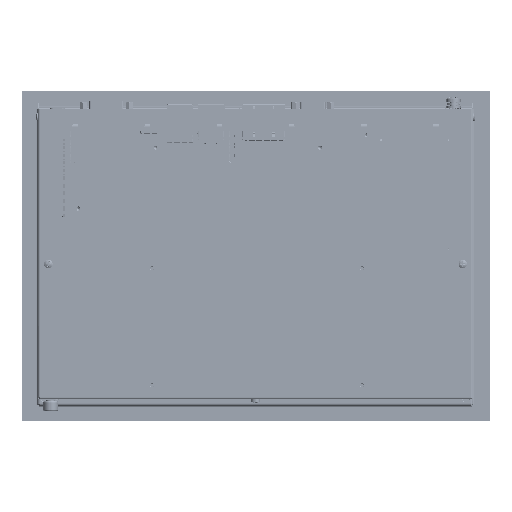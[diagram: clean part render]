
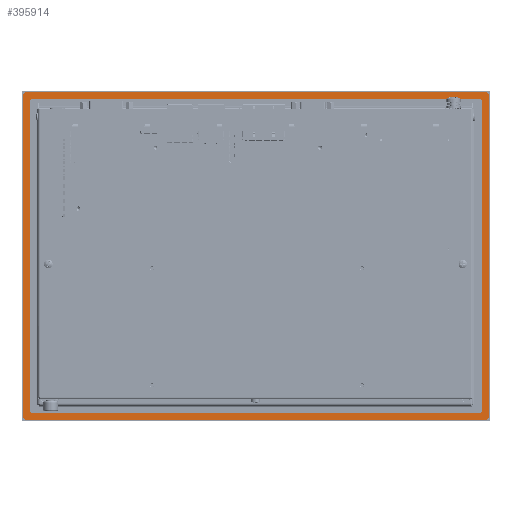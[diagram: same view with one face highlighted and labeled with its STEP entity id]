
A CAD part, front view. The second image highlights one B-rep face of the part: STEP entity #395914.
In plain terms, the highlighted planar face has unit normal (0, -1, 0).
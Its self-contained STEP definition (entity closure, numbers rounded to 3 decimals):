
#6943 = CARTESIAN_POINT ( 'NONE',  ( -158.5, 0., 111. ) ) ;
#7963 = LINE ( 'NONE', #56873, #588717 ) ;
#8489 = VECTOR ( 'NONE', #37451, 1000. ) ;
#11797 = LINE ( 'NONE', #177505, #574786 ) ;
#13218 = VERTEX_POINT ( 'NONE', #521385 ) ;
#17509 = ORIENTED_EDGE ( 'NONE', *, *, #657975, .F. ) ;
#18868 = CARTESIAN_POINT ( 'NONE',  ( -162.5, 0., -116. ) ) ;
#31615 = VERTEX_POINT ( 'NONE', #721792 ) ;
#37451 = DIRECTION ( 'NONE',  ( -1., 0., 0. ) ) ;
#45205 = CARTESIAN_POINT ( 'NONE',  ( -162.5, 0., 116. ) ) ;
#51156 = VERTEX_POINT ( 'NONE', #186982 ) ;
#56873 = CARTESIAN_POINT ( 'NONE',  ( -158.5, 0., -111. ) ) ;
#57369 = VERTEX_POINT ( 'NONE', #688558 ) ;
#68430 = LINE ( 'NONE', #566983, #147587 ) ;
#78218 = DIRECTION ( 'NONE',  ( 0., 0., 1. ) ) ;
#86689 = CARTESIAN_POINT ( 'NONE',  ( 158.5, 0., 111. ) ) ;
#88964 = VERTEX_POINT ( 'NONE', #489904 ) ;
#99351 = CARTESIAN_POINT ( 'NONE',  ( -159.5, 0., 110. ) ) ;
#100674 = ORIENTED_EDGE ( 'NONE', *, *, #215741, .F. ) ;
#108910 = DIRECTION ( 'NONE',  ( 0., 1., 0. ) ) ;
#110302 = CARTESIAN_POINT ( 'NONE',  ( -158.5, 0., -110. ) ) ;
#132757 = VERTEX_POINT ( 'NONE', #18868 ) ;
#143692 = PLANE ( 'NONE',  #554840 ) ;
#145371 = EDGE_CURVE ( 'NONE', #132757, #389582, #220247, .T. ) ;
#146539 = CARTESIAN_POINT ( 'NONE',  ( -164.5, 0., 114. ) ) ;
#147587 = VECTOR ( 'NONE', #677728, 1000. ) ;
#150315 = CARTESIAN_POINT ( 'NONE',  ( 158.5, 0., -111. ) ) ;
#158958 = ORIENTED_EDGE ( 'NONE', *, *, #323422, .F. ) ;
#159292 = CIRCLE ( 'NONE', #565116, 2. ) ;
#160713 = CIRCLE ( 'NONE', #276014, 1. ) ;
#161945 = ORIENTED_EDGE ( 'NONE', *, *, #202605, .F. ) ;
#171222 = VERTEX_POINT ( 'NONE', #150315 ) ;
#175907 = DIRECTION ( 'NONE',  ( 0., 0., 1. ) ) ;
#177505 = CARTESIAN_POINT ( 'NONE',  ( 164.5, 0., 114. ) ) ;
#180217 = FACE_BOUND ( 'NONE', #456961, .T. ) ;
#181221 = ORIENTED_EDGE ( 'NONE', *, *, #693319, .F. ) ;
#186982 = CARTESIAN_POINT ( 'NONE',  ( -158.5, 0., -111. ) ) ;
#191861 = DIRECTION ( 'NONE',  ( 0., 0., -1. ) ) ;
#192670 = CARTESIAN_POINT ( 'NONE',  ( -162.5, 0., -114. ) ) ;
#199132 = LINE ( 'NONE', #99351, #366321 ) ;
#202605 = EDGE_CURVE ( 'NONE', #31615, #485783, #199132, .T. ) ;
#204825 = CARTESIAN_POINT ( 'NONE',  ( 162.5, 0., -116. ) ) ;
#209749 = DIRECTION ( 'NONE',  ( 1., 0., 0. ) ) ;
#215741 = EDGE_CURVE ( 'NONE', #171222, #88964, #557261, .T. ) ;
#219437 = CARTESIAN_POINT ( 'NONE',  ( -162.5, 0., 116. ) ) ;
#220247 = CIRCLE ( 'NONE', #374240, 2. ) ;
#223535 = ORIENTED_EDGE ( 'NONE', *, *, #504006, .F. ) ;
#226540 = DIRECTION ( 'NONE',  ( 1., 0., 0. ) ) ;
#228072 = DIRECTION ( 'NONE',  ( -1., 0., 0. ) ) ;
#229307 = ORIENTED_EDGE ( 'NONE', *, *, #532876, .F. ) ;
#231209 = CARTESIAN_POINT ( 'NONE',  ( 159.5, 0., 110. ) ) ;
#235998 = CARTESIAN_POINT ( 'NONE',  ( -159.5, 0., -110. ) ) ;
#256733 = LINE ( 'NONE', #45205, #423765 ) ;
#263970 = CARTESIAN_POINT ( 'NONE',  ( 0., 0., 0. ) ) ;
#268368 = DIRECTION ( 'NONE',  ( 1., 0., 0. ) ) ;
#276014 = AXIS2_PLACEMENT_3D ( 'NONE', #603102, #553707, #494847 ) ;
#279978 = DIRECTION ( 'NONE',  ( 0., -1., 0. ) ) ;
#285223 = AXIS2_PLACEMENT_3D ( 'NONE', #540613, #317219, #432497 ) ;
#293621 = DIRECTION ( 'NONE',  ( 0., 1., 0. ) ) ;
#293891 = EDGE_CURVE ( 'NONE', #355477, #540027, #639030, .T. ) ;
#296530 = ORIENTED_EDGE ( 'NONE', *, *, #548784, .F. ) ;
#302589 = ORIENTED_EDGE ( 'NONE', *, *, #382051, .F. ) ;
#304425 = ORIENTED_EDGE ( 'NONE', *, *, #145371, .F. ) ;
#306601 = CARTESIAN_POINT ( 'NONE',  ( -164.5, 0., -114. ) ) ;
#317219 = DIRECTION ( 'NONE',  ( 0., 1., 0. ) ) ;
#323422 = EDGE_CURVE ( 'NONE', #540027, #13218, #256733, .T. ) ;
#328510 = DIRECTION ( 'NONE',  ( 0., -1., 0. ) ) ;
#351634 = LINE ( 'NONE', #204825, #8489 ) ;
#355477 = VERTEX_POINT ( 'NONE', #146539 ) ;
#355838 = FACE_OUTER_BOUND ( 'NONE', #576237, .T. ) ;
#361396 = DIRECTION ( 'NONE',  ( 0., -1., 0. ) ) ;
#366321 = VECTOR ( 'NONE', #492523, 1000. ) ;
#374240 = AXIS2_PLACEMENT_3D ( 'NONE', #192670, #293621, #524342 ) ;
#382051 = EDGE_CURVE ( 'NONE', #485783, #51156, #602934, .T. ) ;
#389582 = VERTEX_POINT ( 'NONE', #306601 ) ;
#393761 = CARTESIAN_POINT ( 'NONE',  ( 158.5, 0., 111. ) ) ;
#395914 = ADVANCED_FACE ( 'NONE', ( #180217, #355838 ), #143692, .F. ) ;
#404335 = CARTESIAN_POINT ( 'NONE',  ( 159.5, 0., -110. ) ) ;
#413339 = VECTOR ( 'NONE', #536314, 1000. ) ;
#416981 = VERTEX_POINT ( 'NONE', #393761 ) ;
#416995 = EDGE_CURVE ( 'NONE', #51156, #171222, #7963, .T. ) ;
#417176 = AXIS2_PLACEMENT_3D ( 'NONE', #110302, #279978, #228072 ) ;
#423765 = VECTOR ( 'NONE', #657549, 1000. ) ;
#431128 = AXIS2_PLACEMENT_3D ( 'NONE', #654195, #656639, #268368 ) ;
#432497 = DIRECTION ( 'NONE',  ( -1., 0., 0. ) ) ;
#434084 = EDGE_CURVE ( 'NONE', #701088, #31615, #160713, .T. ) ;
#442389 = ORIENTED_EDGE ( 'NONE', *, *, #596772, .F. ) ;
#456961 = EDGE_LOOP ( 'NONE', ( #302589, #161945, #503907, #223535, #296530, #647813, #100674, #500503 ) ) ;
#479156 = CARTESIAN_POINT ( 'NONE',  ( 158.5, 0., -110. ) ) ;
#485783 = VERTEX_POINT ( 'NONE', #235998 ) ;
#489904 = CARTESIAN_POINT ( 'NONE',  ( 159.5, 0., -110. ) ) ;
#492523 = DIRECTION ( 'NONE',  ( 0., 0., -1. ) ) ;
#494847 = DIRECTION ( 'NONE',  ( 0., 0., 1. ) ) ;
#500503 = ORIENTED_EDGE ( 'NONE', *, *, #416995, .F. ) ;
#503907 = ORIENTED_EDGE ( 'NONE', *, *, #434084, .F. ) ;
#504006 = EDGE_CURVE ( 'NONE', #416981, #701088, #571910, .T. ) ;
#509360 = EDGE_CURVE ( 'NONE', #88964, #600996, #571832, .T. ) ;
#517917 = ORIENTED_EDGE ( 'NONE', *, *, #559751, .F. ) ;
#519060 = AXIS2_PLACEMENT_3D ( 'NONE', #479156, #361396, #191861 ) ;
#521385 = CARTESIAN_POINT ( 'NONE',  ( 162.5, 0., 116. ) ) ;
#524342 = DIRECTION ( 'NONE',  ( 0., 0., -1. ) ) ;
#532876 = EDGE_CURVE ( 'NONE', #610668, #57369, #659944, .T. ) ;
#536314 = DIRECTION ( 'NONE',  ( -1., 0., 0. ) ) ;
#540027 = VERTEX_POINT ( 'NONE', #219437 ) ;
#540222 = DIRECTION ( 'NONE',  ( 0., 1., 0. ) ) ;
#540613 = CARTESIAN_POINT ( 'NONE',  ( -162.5, 0., 114. ) ) ;
#548784 = EDGE_CURVE ( 'NONE', #600996, #416981, #696448, .T. ) ;
#553707 = DIRECTION ( 'NONE',  ( 0., -1., 0. ) ) ;
#554840 = AXIS2_PLACEMENT_3D ( 'NONE', #263970, #108910, #209749 ) ;
#556792 = CARTESIAN_POINT ( 'NONE',  ( 158.5, 0., 110. ) ) ;
#557261 = CIRCLE ( 'NONE', #519060, 1. ) ;
#559240 = DIRECTION ( 'NONE',  ( 1., 0., 0. ) ) ;
#559751 = EDGE_CURVE ( 'NONE', #57369, #132757, #351634, .T. ) ;
#565116 = AXIS2_PLACEMENT_3D ( 'NONE', #582082, #540222, #78218 ) ;
#566983 = CARTESIAN_POINT ( 'NONE',  ( -164.5, 0., -114. ) ) ;
#571832 = LINE ( 'NONE', #404335, #712987 ) ;
#571910 = LINE ( 'NONE', #86689, #413339 ) ;
#574786 = VECTOR ( 'NONE', #641801, 1000. ) ;
#576237 = EDGE_LOOP ( 'NONE', ( #517917, #229307, #442389, #17509, #158958, #589946, #181221, #304425 ) ) ;
#582082 = CARTESIAN_POINT ( 'NONE',  ( 162.5, 0., 114. ) ) ;
#588717 = VECTOR ( 'NONE', #226540, 1000. ) ;
#589946 = ORIENTED_EDGE ( 'NONE', *, *, #293891, .F. ) ;
#596772 = EDGE_CURVE ( 'NONE', #702074, #610668, #11797, .T. ) ;
#600996 = VERTEX_POINT ( 'NONE', #231209 ) ;
#602934 = CIRCLE ( 'NONE', #417176, 1. ) ;
#603102 = CARTESIAN_POINT ( 'NONE',  ( -158.5, 0., 110. ) ) ;
#605521 = CARTESIAN_POINT ( 'NONE',  ( 164.5, 0., 114. ) ) ;
#610668 = VERTEX_POINT ( 'NONE', #677148 ) ;
#639030 = CIRCLE ( 'NONE', #285223, 2. ) ;
#641801 = DIRECTION ( 'NONE',  ( 0., 0., -1. ) ) ;
#647813 = ORIENTED_EDGE ( 'NONE', *, *, #509360, .F. ) ;
#654195 = CARTESIAN_POINT ( 'NONE',  ( 162.5, 0., -114. ) ) ;
#656639 = DIRECTION ( 'NONE',  ( 0., 1., 0. ) ) ;
#657549 = DIRECTION ( 'NONE',  ( 1., 0., 0. ) ) ;
#657975 = EDGE_CURVE ( 'NONE', #13218, #702074, #159292, .T. ) ;
#659944 = CIRCLE ( 'NONE', #431128, 2. ) ;
#670250 = AXIS2_PLACEMENT_3D ( 'NONE', #556792, #328510, #559240 ) ;
#677148 = CARTESIAN_POINT ( 'NONE',  ( 164.5, 0., -114. ) ) ;
#677728 = DIRECTION ( 'NONE',  ( 0., 0., 1. ) ) ;
#688558 = CARTESIAN_POINT ( 'NONE',  ( 162.5, 0., -116. ) ) ;
#693319 = EDGE_CURVE ( 'NONE', #389582, #355477, #68430, .T. ) ;
#696448 = CIRCLE ( 'NONE', #670250, 1. ) ;
#701088 = VERTEX_POINT ( 'NONE', #6943 ) ;
#702074 = VERTEX_POINT ( 'NONE', #605521 ) ;
#712987 = VECTOR ( 'NONE', #175907, 1000. ) ;
#721792 = CARTESIAN_POINT ( 'NONE',  ( -159.5, 0., 110. ) ) ;
